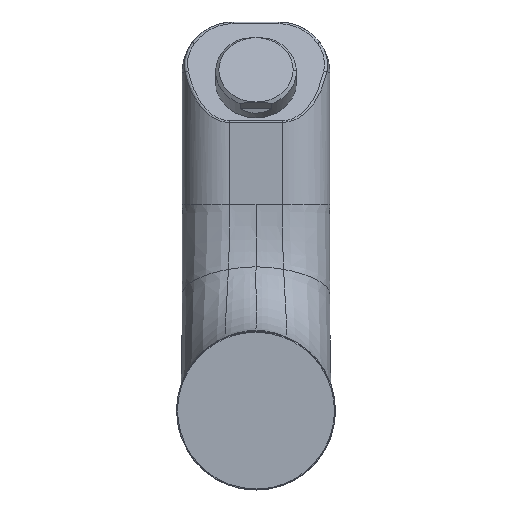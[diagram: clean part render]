
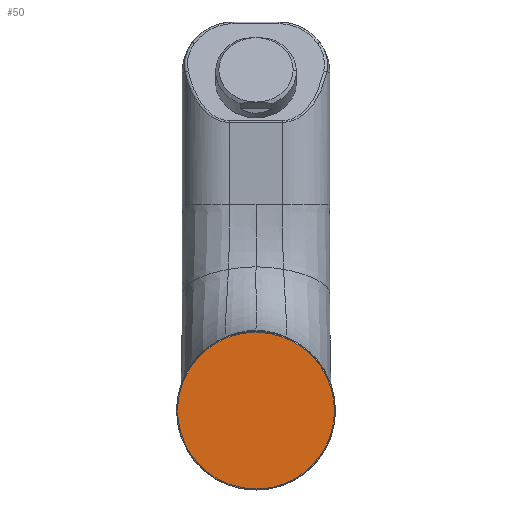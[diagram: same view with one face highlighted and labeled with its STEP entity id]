
A CAD part, front view. The second image highlights one B-rep face of the part: STEP entity #50.
In plain terms, the highlighted planar face has unit normal (0, -1, 0).
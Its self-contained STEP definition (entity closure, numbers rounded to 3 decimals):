
#50 = ADVANCED_FACE ( 'NONE', ( #7215 ), #10272, .T. ) ;
#136 = ORIENTED_EDGE ( 'NONE', *, *, #2915, .F. ) ;
#375 = ORIENTED_EDGE ( 'NONE', *, *, #6356, .F. ) ;
#377 = CARTESIAN_POINT ( 'NONE',  ( 0.158, 0., 23.194 ) ) ;
#890 =( BOUNDED_CURVE ( )  B_SPLINE_CURVE ( 3, ( #2421, #6168, #2364, #8284 ),
 .UNSPECIFIED., .F., .F. ) 
 B_SPLINE_CURVE_WITH_KNOTS ( ( 4, 4 ),
 ( 0.002, 1. ),
 .UNSPECIFIED. ) 
 CURVE ( )  GEOMETRIC_REPRESENTATION_ITEM ( )  RATIONAL_B_SPLINE_CURVE ( ( 1., 0.336, 0.336, 1. ) ) 
 REPRESENTATION_ITEM ( '' )  );
#1366 = VERTEX_POINT ( 'NONE', #5694 ) ;
#1417 = CARTESIAN_POINT ( 'NONE',  ( 0.105, 0., 23.194 ) ) ;
#1498 = CARTESIAN_POINT ( 'NONE',  ( 0., 0., 0. ) ) ;
#2061 = EDGE_LOOP ( 'NONE', ( #136, #375, #4806, #9469 ) ) ;
#2223 = VERTEX_POINT ( 'NONE', #3641 ) ;
#2364 = CARTESIAN_POINT ( 'NONE',  ( -46.075, 0., 23.194 ) ) ;
#2421 = CARTESIAN_POINT ( 'NONE',  ( -0.158, 0., -23.194 ) ) ;
#2915 = EDGE_CURVE ( 'NONE', #2223, #10424, #7440, .T. ) ;
#3641 = CARTESIAN_POINT ( 'NONE',  ( 0., 0., -23.194 ) ) ;
#3932 =( BOUNDED_CURVE ( )  B_SPLINE_CURVE ( 3, ( #377, #7263, #9151, #4369 ),
 .UNSPECIFIED., .F., .T. ) 
 B_SPLINE_CURVE_WITH_KNOTS ( ( 4, 4 ),
 ( 0.002, 1. ),
 .UNSPECIFIED. ) 
 CURVE ( )  GEOMETRIC_REPRESENTATION_ITEM ( )  RATIONAL_B_SPLINE_CURVE ( ( 1., 0.336, 0.336, 1. ) ) 
 REPRESENTATION_ITEM ( '' )  );
#4157 = AXIS2_PLACEMENT_3D ( 'NONE', #1498, #12088, #10081 ) ;
#4266 = CARTESIAN_POINT ( 'NONE',  ( 0., 0., -23.194 ) ) ;
#4369 = CARTESIAN_POINT ( 'NONE',  ( 0., 0., -23.194 ) ) ;
#4417 =( BOUNDED_CURVE ( )  B_SPLINE_CURVE ( 3, ( #6309, #9349, #1417, #10195 ),
 .UNSPECIFIED., .F., .F. ) 
 B_SPLINE_CURVE_WITH_KNOTS ( ( 4, 4 ),
 ( 0., 0.002 ),
 .UNSPECIFIED. ) 
 CURVE ( )  GEOMETRIC_REPRESENTATION_ITEM ( )  RATIONAL_B_SPLINE_CURVE ( ( 1., 1., 1., 1. ) ) 
 REPRESENTATION_ITEM ( '' )  );
#4806 = ORIENTED_EDGE ( 'NONE', *, *, #10777, .F. ) ;
#5227 = CARTESIAN_POINT ( 'NONE',  ( -0.158, 0., -23.194 ) ) ;
#5694 = CARTESIAN_POINT ( 'NONE',  ( 0.158, 0., 23.194 ) ) ;
#6168 = CARTESIAN_POINT ( 'NONE',  ( -46.231, 0., -22.88 ) ) ;
#6309 = CARTESIAN_POINT ( 'NONE',  ( 0., 0., 23.194 ) ) ;
#6356 = EDGE_CURVE ( 'NONE', #1366, #2223, #3932, .T. ) ;
#6515 = CARTESIAN_POINT ( 'NONE',  ( -0.105, 0., -23.194 ) ) ;
#7215 = FACE_OUTER_BOUND ( 'NONE', #2061, .T. ) ;
#7263 = CARTESIAN_POINT ( 'NONE',  ( 46.231, 0., 22.88 ) ) ;
#7440 =( BOUNDED_CURVE ( )  B_SPLINE_CURVE ( 3, ( #4266, #11004, #6515, #7549 ),
 .UNSPECIFIED., .F., .F. ) 
 B_SPLINE_CURVE_WITH_KNOTS ( ( 4, 4 ),
 ( 0., 0.002 ),
 .UNSPECIFIED. ) 
 CURVE ( )  GEOMETRIC_REPRESENTATION_ITEM ( )  RATIONAL_B_SPLINE_CURVE ( ( 1., 1., 1., 1. ) ) 
 REPRESENTATION_ITEM ( '' )  );
#7549 = CARTESIAN_POINT ( 'NONE',  ( -0.158, 0., -23.194 ) ) ;
#7606 = EDGE_CURVE ( 'NONE', #10424, #12785, #890, .T. ) ;
#8284 = CARTESIAN_POINT ( 'NONE',  ( 0., 0., 23.194 ) ) ;
#9151 = CARTESIAN_POINT ( 'NONE',  ( 46.075, 0., -23.194 ) ) ;
#9349 = CARTESIAN_POINT ( 'NONE',  ( 0.053, 0., 23.194 ) ) ;
#9469 = ORIENTED_EDGE ( 'NONE', *, *, #7606, .F. ) ;
#9629 = CARTESIAN_POINT ( 'NONE',  ( 0., 0., 23.194 ) ) ;
#10081 = DIRECTION ( 'NONE',  ( 0., 0., -1. ) ) ;
#10195 = CARTESIAN_POINT ( 'NONE',  ( 0.158, 0., 23.194 ) ) ;
#10272 = PLANE ( 'NONE',  #4157 ) ;
#10424 = VERTEX_POINT ( 'NONE', #5227 ) ;
#10777 = EDGE_CURVE ( 'NONE', #12785, #1366, #4417, .T. ) ;
#11004 = CARTESIAN_POINT ( 'NONE',  ( -0.053, 0., -23.194 ) ) ;
#12088 = DIRECTION ( 'NONE',  ( 0., -1., 0. ) ) ;
#12785 = VERTEX_POINT ( 'NONE', #9629 ) ;
